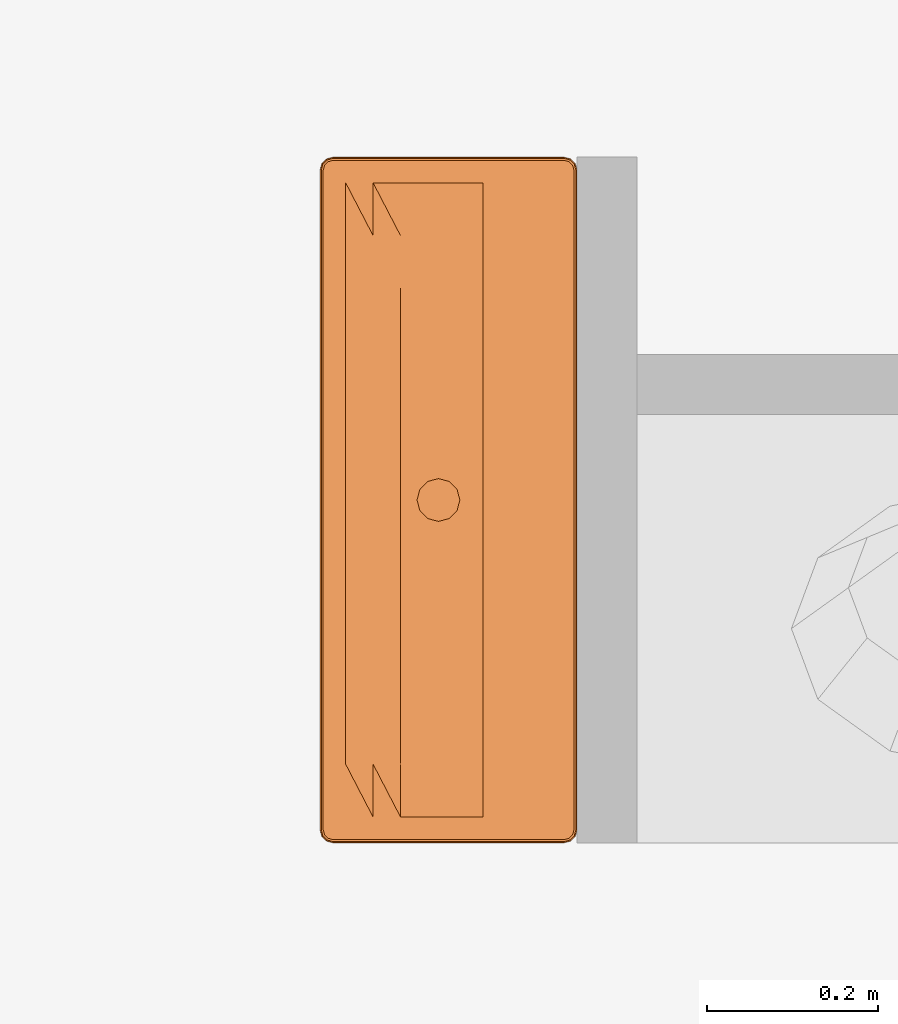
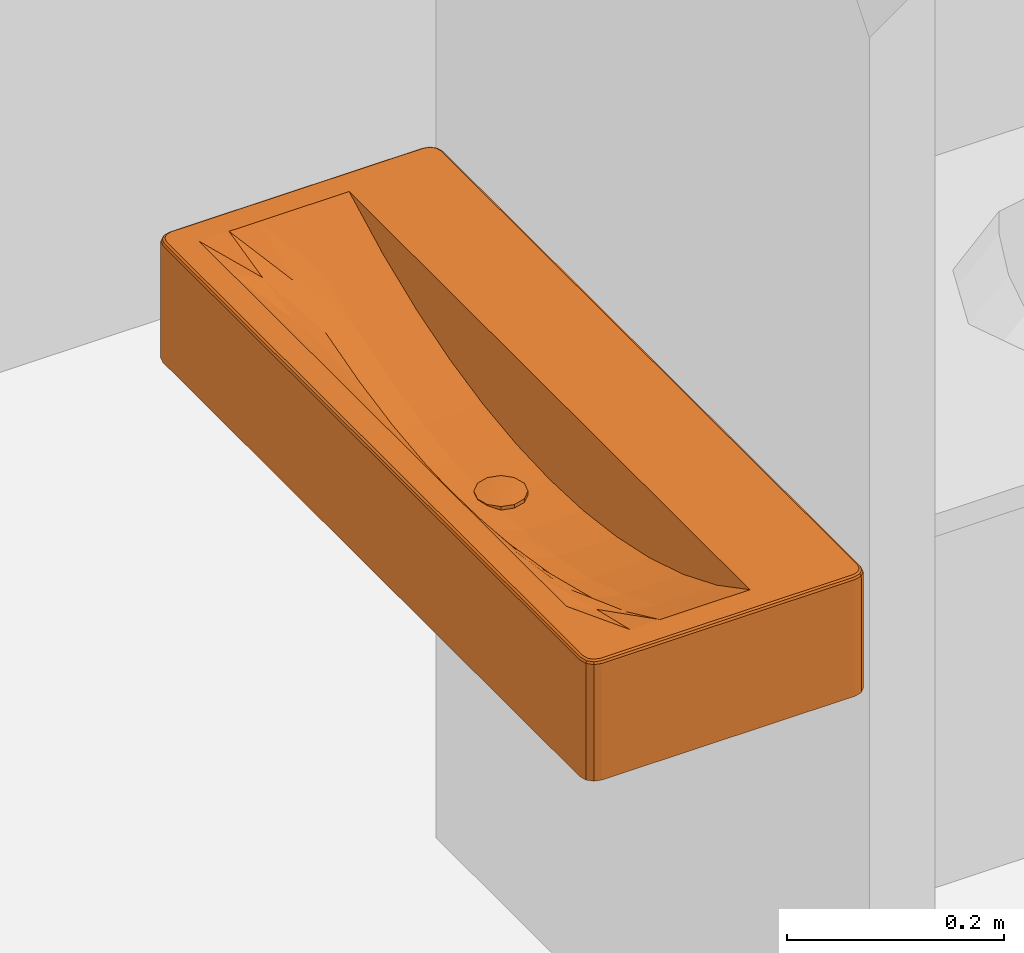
# One storey, part 61 of 64: 1 proxy.
"""IFC2X3 building model written with IfcOpenShell, lengths in metres."""

from ifc_helpers import new_model, entity, si_unit, converted_unit, derived_unit, direction, frame, origin, place, context, subcontext, project, spatial, faceted_brep, source, transform, mapped, material, type_object, type_shapes, element, save


model = new_model("IFC2X3")

# Units and contexts
model_context = context("Model", 3, precision=1e-05, world=origin(), true_north=direction((6.123031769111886e-17, 1.0)))
body_context = subcontext(model_context, "Body", "Model", "MODEL_VIEW")
ifc_project = project(units=[si_unit("LENGTHUNIT", "METRE"), si_unit("AREAUNIT", "SQUARE_METRE"), si_unit("VOLUMEUNIT", "CUBIC_METRE"), converted_unit("PLANEANGLEUNIT", "DEGREE", entity("IfcRatioMeasure", 0.017453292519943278), si_unit("PLANEANGLEUNIT", "RADIAN"), dimensions=[0, 0, 0, 0, 0, 0, 0]), si_unit("MASSUNIT", "GRAM", prefix="KILO"), derived_unit("MASSDENSITYUNIT", [(si_unit("MASSUNIT", "GRAM", prefix="KILO"), 1), (si_unit("LENGTHUNIT", "METRE"), -3)]), derived_unit("MOMENTOFINERTIAUNIT", [(si_unit("LENGTHUNIT", "METRE"), 4)]), si_unit("TIMEUNIT", "SECOND"), si_unit("FREQUENCYUNIT", "HERTZ"), si_unit("THERMODYNAMICTEMPERATUREUNIT", "DEGREE_CELSIUS"), derived_unit("THERMALTRANSMITTANCEUNIT", [(si_unit("MASSUNIT", "GRAM", prefix="KILO"), 1), (si_unit("THERMODYNAMICTEMPERATUREUNIT", "KELVIN"), -1), (si_unit("TIMEUNIT", "SECOND"), -3)]), derived_unit("THERMALCONDUCTANCEUNIT", [(si_unit("MASSUNIT", "GRAM", prefix="KILO"), 1), (si_unit("LENGTHUNIT", "METRE"), 1), (si_unit("THERMODYNAMICTEMPERATUREUNIT", "KELVIN"), -1), (si_unit("TIMEUNIT", "SECOND"), -3)]), derived_unit("VOLUMETRICFLOWRATEUNIT", [(si_unit("LENGTHUNIT", "METRE"), 3), (si_unit("TIMEUNIT", "SECOND"), -1)]), derived_unit("MASSFLOWRATEUNIT", [(si_unit("MASSUNIT", "GRAM", prefix="KILO"), 1), (si_unit("TIMEUNIT", "SECOND"), -1)]), derived_unit("ROTATIONALFREQUENCYUNIT", [(si_unit("TIMEUNIT", "SECOND"), -1)]), si_unit("ELECTRICCURRENTUNIT", "AMPERE"), si_unit("ELECTRICVOLTAGEUNIT", "VOLT"), si_unit("POWERUNIT", "WATT"), si_unit("FORCEUNIT", "NEWTON", prefix="KILO"), si_unit("ILLUMINANCEUNIT", "LUX"), si_unit("LUMINOUSFLUXUNIT", "LUMEN"), si_unit("LUMINOUSINTENSITYUNIT", "CANDELA"), derived_unit("USERDEFINED", [(si_unit("MASSUNIT", "GRAM", prefix="KILO"), -1), (si_unit("LENGTHUNIT", "METRE"), -2), (si_unit("TIMEUNIT", "SECOND"), 3), (si_unit("LUMINOUSFLUXUNIT", "LUMEN"), 1)]), derived_unit("USERDEFINED", [(si_unit("MASSUNIT", "GRAM", prefix="KILO"), 1), (si_unit("LENGTHUNIT", "METRE"), 3), (si_unit("TIMEUNIT", "SECOND"), -3), (si_unit("ELECTRICCURRENTUNIT", "AMPERE"), -2)]), derived_unit("USERDEFINED", [(si_unit("LENGTHUNIT", "METRE"), 2), (si_unit("TIMEUNIT", "SECOND"), -2)]), derived_unit("SOUNDPOWERUNIT", [(si_unit("MASSUNIT", "GRAM", prefix="KILO"), 1), (si_unit("LENGTHUNIT", "METRE"), 2), (si_unit("TIMEUNIT", "SECOND"), -3)]), derived_unit("SOUNDPRESSUREUNIT", [(si_unit("MASSUNIT", "GRAM", prefix="KILO"), 1), (si_unit("LENGTHUNIT", "METRE"), -1), (si_unit("TIMEUNIT", "SECOND"), -2)]), derived_unit("LINEARVELOCITYUNIT", [(si_unit("LENGTHUNIT", "METRE"), 1), (si_unit("TIMEUNIT", "SECOND"), -1)]), si_unit("PRESSUREUNIT", "PASCAL"), derived_unit("USERDEFINED", [(si_unit("LENGTHUNIT", "METRE"), -2), (si_unit("MASSUNIT", "GRAM", prefix="KILO"), 1), (si_unit("TIMEUNIT", "SECOND"), -2)]), derived_unit("LINEARFORCEUNIT", [(si_unit("MASSUNIT", "GRAM", prefix="KILO"), 1), (si_unit("LENGTHUNIT", "METRE"), 1), (si_unit("TIMEUNIT", "SECOND"), -2), (si_unit("LENGTHUNIT", "METRE"), -1)]), derived_unit("PLANARFORCEUNIT", [(si_unit("MASSUNIT", "GRAM", prefix="KILO"), 1), (si_unit("LENGTHUNIT", "METRE"), 1), (si_unit("TIMEUNIT", "SECOND"), -2), (si_unit("LENGTHUNIT", "METRE"), -2)]), derived_unit("SPECIFICHEATCAPACITYUNIT", [(si_unit("LENGTHUNIT", "METRE"), 2), (si_unit("TIMEUNIT", "SECOND"), -2), (si_unit("THERMODYNAMICTEMPERATUREUNIT", "KELVIN"), -1)]), derived_unit("VAPORPERMEABILITYUNIT", [(si_unit("TIMEUNIT", "SECOND"), 1), (si_unit("LENGTHUNIT", "METRE"), -1)]), derived_unit("DYNAMICVISCOSITYUNIT", [(si_unit("MASSUNIT", "GRAM", prefix="KILO"), 1), (si_unit("LENGTHUNIT", "METRE"), -1), (si_unit("TIMEUNIT", "SECOND"), -1)]), derived_unit("THERMALEXPANSIONCOEFFICIENTUNIT", [(si_unit("THERMODYNAMICTEMPERATUREUNIT", "KELVIN"), -1)])], contexts=[model_context])

# Site, building, storey
site_placement = place(None, origin())
site = spatial("IfcSite", under=ifc_project, at=site_placement, Name="Default", CompositionType="ELEMENT")
building_placement = place(site_placement, origin())
building = spatial("IfcBuilding", under=site, at=building_placement, CompositionType="ELEMENT")
storey_placement = place(building_placement, origin())
storey = spatial("IfcBuildingStorey", under=building, at=storey_placement, Name="REZ-DE-CHAUSSÉE", CompositionType="ELEMENT", Elevation=0.0)

# Proxy
ifc_material = material(Name="Déco - Céramique / Porcelaine")
building_element_proxy_type = type_object("IfcBuildingElementProxyType", Name="Symb-0001", PredefinedType="NOTDEFINED", material=ifc_material)
shared_shape = source(origin(), body_context, "Body", "Brep", [
    faceted_brep([(0.0, 0.015000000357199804, 0.0), (0.0, 0.7850000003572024, 0.0), (0.002009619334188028, 0.7925000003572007, 0.0), (0.007500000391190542, 0.797990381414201, 0.0), (0.015000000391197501, 0.800000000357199, 0.0), (0.2850000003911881, 0.800000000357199, 0.0), (0.29250000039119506, 0.797990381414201, 0.0), (0.29799038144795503, 0.7925000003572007, 0.0), (0.3000000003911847, 0.7850000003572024, 0.0), (0.3000000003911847, 0.015000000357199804, 0.0), (0.29799038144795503, 0.007500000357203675, 0.0), (0.29250000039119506, 0.00200961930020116, 0.0), (0.2850000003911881, 0.0, 0.0), (0.015000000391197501, 0.0, 0.0), (0.007500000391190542, 0.00200961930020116, 0.0), (0.002009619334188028, 0.007500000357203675, 0.0), (0.03000000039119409, 0.7700000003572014, 0.0), (0.03000000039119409, 0.030000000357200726, 0.0), (0.19000000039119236, 0.030000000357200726, 0.0), (0.19000000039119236, 0.7700000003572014, 0.0), (0.0, 0.015000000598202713, 0.13000000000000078), (0.0, 0.7850000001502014, 0.13000000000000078), (0.0020096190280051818, 0.7925000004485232, 0.13000000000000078), (0.007500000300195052, 0.79799038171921, 0.13000000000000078), (0.01500000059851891, 0.8000000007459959, 0.13000000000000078), (0.28500000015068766, 0.8000000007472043, 0.13000000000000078), (0.29250000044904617, 0.797990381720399, 0.13000000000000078), (0.29799038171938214, 0.7925000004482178, 0.13000000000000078), (0.300000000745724, 0.7850000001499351, 0.13000000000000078), (0.3000000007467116, 0.015000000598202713, 0.13000000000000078), (0.2979903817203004, 0.007500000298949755, 0.13000000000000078), (0.2925000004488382, 0.0020096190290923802, 0.13000000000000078), (0.2850000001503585, 0.0, 0.13000000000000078), (0.015000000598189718, 0.0, 0.13000000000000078), (0.00750000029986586, 0.0020096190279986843, 0.13000000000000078), (0.002009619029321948, 0.007500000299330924, 0.13000000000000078), (0.03000000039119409, 0.7700000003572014, 0.13499999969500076), (0.03000000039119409, 0.030000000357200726, 0.13499999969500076), (0.19000000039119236, 0.030000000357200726, 0.13499999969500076), (0.19000000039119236, 0.7700000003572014, 0.13499999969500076), (0.00017037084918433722, 0.01502243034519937, 0.13129409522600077), (0.00017037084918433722, 0.7849775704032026, 0.13129409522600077), (0.002162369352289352, 0.7924118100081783, 0.13129409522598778), (0.007588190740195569, 0.7978376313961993, 0.13129409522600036), (0.015022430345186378, 0.7998296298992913, 0.13129409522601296), (0.2849775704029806, 0.7998296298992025, 0.1312940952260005), (0.2924118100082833, 0.7978376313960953, 0.13129409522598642), (0.29783763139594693, 0.7924118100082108, 0.13129409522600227), (0.2998296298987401, 0.7849775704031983, 0.13129409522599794), (0.29982962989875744, 0.01502243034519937, 0.13129409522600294), (0.29783763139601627, 0.007588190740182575, 0.1312940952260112), (0.29241181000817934, 0.0021623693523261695, 0.1312940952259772), (0.2849775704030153, 0.00017037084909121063, 0.1312940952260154), (0.015022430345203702, 0.00017037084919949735, 0.1312940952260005), (0.007588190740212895, 0.0021623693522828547, 0.1312940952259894), (0.0021623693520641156, 0.007588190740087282, 0.13129409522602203), (0.29500000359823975, 0.7843417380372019, 0.1349999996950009), (0.2935075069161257, 0.7899118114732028, 0.1349999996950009), (0.28991181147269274, 0.7935075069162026, 0.1349999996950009), (0.28434173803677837, 0.7950000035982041, 0.1349999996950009), (0.01565826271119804, 0.7950000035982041, 0.1349999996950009), (0.010088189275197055, 0.7935075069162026, 0.1349999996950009), (0.006492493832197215, 0.7899118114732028, 0.1349999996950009), (0.004999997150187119, 0.7843417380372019, 0.1349999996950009), (0.004999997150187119, 0.015658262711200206, 0.1349999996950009), (0.006492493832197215, 0.010088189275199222, 0.1349999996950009), (0.010088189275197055, 0.006492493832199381, 0.1349999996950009), (0.01565826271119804, 0.004999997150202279, 0.1349999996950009), (0.28434173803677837, 0.004999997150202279, 0.1349999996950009), (0.28991181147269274, 0.006492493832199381, 0.1349999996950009), (0.2935075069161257, 0.010088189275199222, 0.1349999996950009), (0.29500000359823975, 0.015658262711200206, 0.1349999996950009), (0.0014644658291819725, 0.015192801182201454, 0.13353553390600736), (0.0014644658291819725, 0.7848071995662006, 0.13353553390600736), (0.0033226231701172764, 0.7917419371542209, 0.13353553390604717), (0.008258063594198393, 0.7966773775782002, 0.13353553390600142), (0.01519280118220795, 0.7985355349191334, 0.13353553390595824), (0.2848071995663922, 0.7985355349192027, 0.13353553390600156), (0.29174193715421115, 0.7966773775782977, 0.13353553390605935), (0.2966773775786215, 0.7917419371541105, 0.13353553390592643), (0.2985355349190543, 0.7848071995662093, 0.13353553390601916), (0.298535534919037, 0.015192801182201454, 0.1335355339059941), (0.2966773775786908, 0.008258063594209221, 0.13353553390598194), (0.2917419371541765, 0.0033226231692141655, 0.1335355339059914), (0.28480719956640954, 0.0014644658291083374, 0.13353553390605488), (0.015192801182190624, 0.0014644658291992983, 0.13353553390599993), (0.008258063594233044, 0.0033226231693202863, 0.13353553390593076), (0.003322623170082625, 0.00825806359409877, 0.13353553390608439), (0.2946677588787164, 0.7905816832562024, 0.13482962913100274), (0.29629409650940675, 0.7845121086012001, 0.1348296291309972), (0.2905816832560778, 0.7946677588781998, 0.13482962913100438), (0.28451210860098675, 0.7962940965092, 0.13482962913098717), (0.01548789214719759, 0.7962940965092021, 0.13482962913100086), (0.009418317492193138, 0.7946677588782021, 0.13482962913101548), (0.00533224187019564, 0.7905816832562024, 0.13482962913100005), (0.003705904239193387, 0.7845121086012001, 0.1348296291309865), (0.003705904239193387, 0.015487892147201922, 0.13482962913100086), (0.00533224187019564, 0.009418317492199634, 0.1348296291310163), (0.009418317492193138, 0.005332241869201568, 0.13482962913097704), (0.01548789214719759, 0.003705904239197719, 0.13482962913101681), (0.28451210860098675, 0.0037059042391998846, 0.13482962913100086), (0.2905816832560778, 0.005332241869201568, 0.13482962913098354), (0.2946677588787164, 0.00941831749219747, 0.134829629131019), (0.29629409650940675, 0.015487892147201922, 0.13482962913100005), (0.11653636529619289, 0.3875000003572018, 0.0), (0.12568700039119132, 0.378349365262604, 0.0), (0.13818700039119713, 0.37500000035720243, 0.0), (0.15068700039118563, 0.378349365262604, 0.0), (0.15983763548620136, 0.3875000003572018, 0.0), (0.16318700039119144, 0.40000000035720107, 0.0), (0.15983763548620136, 0.4125000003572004, 0.0), (0.15068700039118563, 0.4216506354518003, 0.0), (0.13818700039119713, 0.4250000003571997, 0.0), (0.12568700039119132, 0.4216506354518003, 0.0), (0.11653636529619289, 0.4125000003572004, 0.0), (0.11318700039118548, 0.40000000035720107, 0.0), (0.09400000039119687, 0.7700000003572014, 0.1350000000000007), (0.12600000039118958, 0.7700000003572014, 0.1350000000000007), (0.15800000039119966, 0.7700000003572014, 0.1350000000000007), (0.19000000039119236, 0.7700000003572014, 0.1350000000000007), (0.03000000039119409, 0.7700000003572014, 0.1350000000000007), (0.06200000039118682, 0.7700000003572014, 0.1350000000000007), (0.19000000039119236, 0.215000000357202, 0.058679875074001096), (0.19000000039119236, 0.15333333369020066, 0.07765767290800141), (0.19000000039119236, 0.09166666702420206, 0.10285106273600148), (0.19000000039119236, 0.030000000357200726, 0.13500000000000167), (0.19000000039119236, 0.7083333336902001, 0.10285106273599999), (0.19000000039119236, 0.6466666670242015, 0.07765767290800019), (0.19000000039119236, 0.5850000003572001, 0.058679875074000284), (0.19000000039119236, 0.5233333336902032, 0.04542877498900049), (0.19000000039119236, 0.46166666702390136, 0.03759326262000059), (0.19000000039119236, 0.40000000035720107, 0.03500000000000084), (0.19000000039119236, 0.33833333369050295, 0.03759326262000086), (0.19000000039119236, 0.2766666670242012, 0.04542877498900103), (0.12600000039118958, 0.03000000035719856, 0.1350000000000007), (0.09400000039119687, 0.03000000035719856, 0.1350000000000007), (0.06200000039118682, 0.03000000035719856, 0.1350000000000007), (0.03000000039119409, 0.03000000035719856, 0.1350000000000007), (0.15800000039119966, 0.03000000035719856, 0.1350000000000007), (0.03000000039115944, 0.5850000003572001, 0.1350000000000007), (0.03000000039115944, 0.6466666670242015, 0.1350000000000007), (0.03000000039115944, 0.7083333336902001, 0.1350000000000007), (0.03000000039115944, 0.09166666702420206, 0.1350000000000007), (0.03000000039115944, 0.15333333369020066, 0.1350000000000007), (0.03000000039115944, 0.215000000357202, 0.1350000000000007), (0.03000000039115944, 0.2766666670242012, 0.1350000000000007), (0.03000000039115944, 0.33833333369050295, 0.1350000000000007), (0.03000000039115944, 0.40000000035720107, 0.1350000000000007), (0.03000000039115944, 0.46166666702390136, 0.1350000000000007), (0.03000000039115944, 0.5233333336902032, 0.1350000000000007), (0.11653636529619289, 0.38750000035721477, 0.03857179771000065), (0.12568700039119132, 0.378349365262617, 0.03601121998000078), (0.12600000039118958, 0.37826549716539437, 0.035913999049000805), (0.13818700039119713, 0.37500000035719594, 0.03605132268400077), (0.15068700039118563, 0.3783493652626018, 0.035910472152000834), (0.15800000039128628, 0.38566236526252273, 0.03560293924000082), (0.1598376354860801, 0.3875000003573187, 0.03552566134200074), (0.16318700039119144, 0.4000000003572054, 0.03500000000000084), (0.15983763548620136, 0.41250000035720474, 0.03552566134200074), (0.15800000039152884, 0.4143376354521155, 0.03560293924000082), (0.15068700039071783, 0.42165063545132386, 0.035910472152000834), (0.13818700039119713, 0.42500000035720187, 0.03605132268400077), (0.12600000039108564, 0.42173450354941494, 0.035913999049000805), (0.12568700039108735, 0.4216506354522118, 0.03600890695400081), (0.11849640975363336, 0.4144600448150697, 0.037967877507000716), (0.11653636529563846, 0.41250000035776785, 0.03852386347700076), (0.11318700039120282, 0.40000000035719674, 0.03912422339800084), (0.12600000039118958, 0.7083333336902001, 0.10285106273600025), (0.15800000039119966, 0.7083333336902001, 0.10285106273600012), (0.06200000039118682, 0.7083333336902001, 0.12036327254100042), (0.09400000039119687, 0.7083333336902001, 0.10644774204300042), (0.15800000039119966, 0.15333333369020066, 0.07765767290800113), (0.15800000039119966, 0.215000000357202, 0.058679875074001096), (0.15800000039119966, 0.09166666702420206, 0.10285106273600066), (0.15800000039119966, 0.6466666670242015, 0.07765767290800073), (0.15800000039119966, 0.5850000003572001, 0.058679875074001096), (0.15800000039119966, 0.5233333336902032, 0.04542877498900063), (0.15800000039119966, 0.46166666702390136, 0.03759326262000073), (0.15800000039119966, 0.33833333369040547, 0.03759326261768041), (0.15800000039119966, 0.2766666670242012, 0.04542877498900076), (0.09400000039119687, 0.09166666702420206, 0.10644774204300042), (0.06200000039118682, 0.09166666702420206, 0.12036327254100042), (0.12600000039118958, 0.09166666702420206, 0.1028510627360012), (0.06200000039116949, 0.5850000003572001, 0.0993358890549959), (0.06200000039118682, 0.6466666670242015, 0.10849779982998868), (0.06200000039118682, 0.15333333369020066, 0.10849779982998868), (0.06200000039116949, 0.215000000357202, 0.0993358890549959), (0.06200000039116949, 0.2766666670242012, 0.09282677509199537), (0.06200000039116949, 0.33833333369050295, 0.08893516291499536), (0.06200000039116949, 0.40000000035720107, 0.08764024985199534), (0.06200000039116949, 0.46166666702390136, 0.08893516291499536), (0.06200000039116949, 0.5233333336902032, 0.09282677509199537), (0.0940000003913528, 0.40000000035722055, 0.04530009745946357), (0.12600000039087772, 0.3383333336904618, 0.037593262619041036), (0.12600000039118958, 0.46166666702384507, 0.037593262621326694), (0.09400000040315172, 0.4616666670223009, 0.047656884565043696), (0.12600000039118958, 0.6466666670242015, 0.07765767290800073), (0.12600000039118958, 0.15333333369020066, 0.07765767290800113), (0.12600000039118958, 0.215000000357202, 0.058679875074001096), (0.12600000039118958, 0.5850000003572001, 0.058679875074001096), (0.12600000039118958, 0.5233333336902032, 0.04542877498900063), (0.12600000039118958, 0.2766666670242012, 0.04542877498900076), (0.09400000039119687, 0.33833333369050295, 0.047656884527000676), (0.09400000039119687, 0.5233333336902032, 0.05476898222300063), (0.09400000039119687, 0.6466666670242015, 0.08387453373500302), (0.09400000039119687, 0.215000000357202, 0.06676538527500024), (0.09400000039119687, 0.15333333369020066, 0.08387453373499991), (0.09400000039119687, 0.5850000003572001, 0.06676538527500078), (0.09400000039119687, 0.2766666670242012, 0.05476898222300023), (0.12568700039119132, 0.378349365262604, 0.03500000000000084), (0.11653636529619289, 0.3875000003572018, 0.03500000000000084), (0.11318700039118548, 0.40000000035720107, 0.03500000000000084), (0.11653636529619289, 0.4125000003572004, 0.03500000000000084), (0.12568700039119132, 0.4216506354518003, 0.03500000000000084), (0.13818700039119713, 0.4250000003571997, 0.03500000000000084), (0.15068700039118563, 0.4216506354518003, 0.03500000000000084), (0.15983763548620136, 0.4125000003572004, 0.03500000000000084), (0.15983763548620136, 0.3875000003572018, 0.03500000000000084), (0.15068700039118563, 0.378349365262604, 0.03500000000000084), (0.13818700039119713, 0.37500000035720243, 0.03500000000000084), (0.12568700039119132, 0.378349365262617, 0.040000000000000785), (0.11653636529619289, 0.38750000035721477, 0.040000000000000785), (0.11318700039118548, 0.40000000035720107, 0.040000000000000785), (0.11653636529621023, 0.4125000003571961, 0.040000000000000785), (0.12568700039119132, 0.4216506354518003, 0.040000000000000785), (0.13818700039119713, 0.4250000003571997, 0.040000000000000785), (0.15068700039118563, 0.4216506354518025, 0.040000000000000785), (0.15983763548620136, 0.4125000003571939, 0.040000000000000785), (0.16318700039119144, 0.4000000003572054, 0.040000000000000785), (0.15983763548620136, 0.3875000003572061, 0.040000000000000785), (0.15068700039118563, 0.3783493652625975, 0.040000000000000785), (0.13818700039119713, 0.37500000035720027, 0.040000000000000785), (0.13818700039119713, 0.40000000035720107, 0.042000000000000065), (0.1508089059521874, 0.40000000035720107, 0.04149757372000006), (0.1491178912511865, 0.40631095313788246, 0.04149757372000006), (0.1491178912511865, 0.39368904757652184, 0.04149757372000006), (0.14449795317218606, 0.4109308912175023, 0.041497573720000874), (0.14449795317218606, 0.3890691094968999, 0.041497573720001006), (0.13818700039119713, 0.41262190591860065, 0.041497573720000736), (0.13818700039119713, 0.3873780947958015, 0.041497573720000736), (0.1318760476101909, 0.4109308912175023, 0.041497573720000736), (0.1318760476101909, 0.3890691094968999, 0.041497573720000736), (0.12725610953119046, 0.40631095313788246, 0.041497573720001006), (0.12725610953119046, 0.39368904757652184, 0.041497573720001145), (0.12556509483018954, 0.40000000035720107, 0.041497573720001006)], [[[0, 1, 2, 3, 4, 5, 6, 7, 8, 9, 10, 11, 12, 13, 14, 15], [16, 17, 18, 19]], [[0, 20, 21, 1]], [[1, 21, 22, 2]], [[2, 22, 23, 3]], [[3, 23, 24, 4]], [[4, 24, 25, 5]], [[5, 25, 26, 6]], [[6, 26, 27, 7]], [[7, 27, 28, 8]], [[8, 28, 29, 9]], [[9, 29, 30, 10]], [[10, 30, 31, 11]], [[11, 31, 32, 12]], [[12, 32, 33, 13]], [[13, 33, 34, 14]], [[14, 34, 35, 15]], [[15, 35, 20, 0]], [[36, 37, 17, 16]], [[37, 38, 18, 17]], [[38, 39, 19, 18]], [[39, 36, 16, 19]], [[20, 40, 41, 21]], [[21, 41, 42, 22]], [[22, 42, 43, 23]], [[23, 43, 44, 24]], [[24, 44, 45, 25]], [[25, 45, 46, 26]], [[26, 46, 47, 27]], [[27, 47, 48, 28]], [[28, 48, 49, 29]], [[29, 49, 50, 30]], [[30, 50, 51, 31]], [[31, 51, 52, 32]], [[32, 52, 53, 33]], [[33, 53, 54, 34]], [[34, 54, 55, 35]], [[35, 55, 40, 20]], [[56, 57, 58, 59, 60, 61, 62, 63, 64, 65, 66, 67, 68, 69, 70, 71], [36, 39, 38, 37]], [[40, 72, 73, 41]], [[41, 73, 74, 42]], [[42, 74, 75, 43]], [[43, 75, 76, 44]], [[44, 76, 77, 45]], [[45, 77, 78, 46]], [[46, 78, 79, 47]], [[47, 79, 80, 48]], [[48, 80, 81, 49]], [[49, 81, 82, 50]], [[50, 82, 83, 51]], [[51, 83, 84, 52]], [[52, 84, 85, 53]], [[53, 85, 86, 54]], [[54, 86, 87, 55]], [[55, 87, 72, 40]], [[88, 57, 56, 89]], [[90, 58, 57, 88]], [[91, 59, 58, 90]], [[92, 60, 59, 91]], [[93, 61, 60, 92]], [[94, 62, 61, 93]], [[95, 63, 62, 94]], [[96, 64, 63, 95]], [[97, 65, 64, 96]], [[98, 66, 65, 97]], [[99, 67, 66, 98]], [[100, 68, 67, 99]], [[101, 69, 68, 100]], [[102, 70, 69, 101]], [[103, 71, 70, 102]], [[89, 56, 71, 103]], [[72, 96, 95, 73]], [[73, 95, 94, 74]], [[74, 94, 93, 75]], [[75, 93, 92, 76]], [[76, 92, 91, 77]], [[77, 91, 90, 78]], [[78, 90, 88, 79]], [[79, 88, 89, 80]], [[80, 89, 103, 81]], [[81, 103, 102, 82]], [[82, 102, 101, 83]], [[83, 101, 100, 84]], [[84, 100, 99, 85]], [[85, 99, 98, 86]], [[86, 98, 97, 87]], [[87, 97, 96, 72]], [[16, 19, 18, 17], [104, 105, 106, 107, 108, 109, 110, 111, 112, 113, 114, 115]], [[116, 117, 118, 119, 19, 16, 120, 121]], [[122, 123, 124, 125, 18, 19, 119, 126, 127, 128, 129, 130, 131, 132, 133]], [[134, 135, 136, 137, 17, 18, 125, 138]], [[139, 140, 141, 120, 16, 17, 137, 142, 143, 144, 145, 146, 147, 148, 149]], [[150, 151, 105, 104]], [[152, 153, 106, 105, 151]], [[153, 154, 107, 106]], [[154, 155, 156, 108, 107]], [[156, 157, 109, 108]], [[157, 158, 110, 109]], [[158, 159, 160, 111, 110]], [[160, 161, 112, 111]], [[162, 163, 113, 112, 161]], [[164, 165, 114, 113, 163]], [[165, 166, 115, 114]], [[166, 150, 104, 115]], [[116, 167, 117]], [[167, 168, 118, 117]], [[168, 126, 119, 118]], [[120, 169, 121]], [[121, 170, 116]], [[171, 123, 122, 172]], [[173, 124, 123, 171]], [[138, 125, 124, 173]], [[174, 127, 126, 168]], [[175, 128, 127, 174]], [[176, 129, 128, 175]], [[177, 130, 129, 176]], [[158, 157, 131, 130, 177, 159]], [[156, 155, 178, 132, 131, 157]], [[179, 133, 132, 178]], [[172, 122, 133, 179]], [[180, 135, 134]], [[181, 136, 135]], [[142, 137, 136]], [[134, 138, 173, 182]], [[140, 139, 183]], [[141, 140, 184]], [[120, 141, 169]], [[143, 142, 181]], [[144, 143, 185]], [[145, 144, 186]], [[146, 145, 187]], [[147, 146, 188]], [[148, 147, 189]], [[149, 148, 190]], [[139, 149, 191]], [[150, 166, 192, 193, 152, 151]], [[155, 178, 193, 152, 153, 154]], [[160, 159, 177, 194, 162, 161]], [[163, 162, 194, 195, 164]], [[165, 164, 195, 192, 166]], [[116, 170, 167]], [[196, 174, 168, 167]], [[121, 169, 170]], [[197, 171, 172, 198]], [[182, 173, 171, 197]], [[199, 175, 174, 196]], [[200, 176, 175, 199]], [[194, 177, 176, 200]], [[201, 179, 178, 193]], [[198, 172, 179, 201]], [[181, 135, 180]], [[180, 134, 182]], [[142, 136, 181]], [[139, 191, 183]], [[140, 183, 184]], [[141, 184, 169]], [[143, 181, 185]], [[144, 185, 186]], [[145, 186, 187]], [[146, 187, 188]], [[147, 188, 189]], [[148, 189, 190]], [[149, 190, 191]], [[192, 202, 193]], [[203, 195, 194]], [[190, 192, 195]], [[170, 196, 167]], [[169, 204, 170]], [[205, 197, 198]], [[206, 182, 197]], [[204, 199, 196]], [[207, 200, 199]], [[203, 194, 200]], [[202, 201, 193]], [[208, 198, 201]], [[185, 181, 180]], [[206, 180, 182]], [[183, 191, 203]], [[184, 183, 207]], [[169, 184, 204]], [[186, 185, 206]], [[187, 186, 205]], [[188, 187, 208]], [[189, 188, 202]], [[190, 189, 192]], [[191, 190, 195]], [[189, 202, 192]], [[191, 195, 203]], [[170, 204, 196]], [[205, 206, 197]], [[208, 205, 198]], [[204, 207, 199]], [[207, 203, 200]], [[202, 208, 201]], [[185, 180, 206]], [[183, 203, 207]], [[184, 207, 204]], [[186, 206, 205]], [[187, 205, 208]], [[188, 208, 202]], [[209, 210, 211, 212, 213, 214, 215, 216, 157, 217, 218, 219]], [[210, 209, 220, 221]], [[211, 210, 221, 222]], [[212, 211, 222, 223]], [[213, 212, 223, 224]], [[214, 213, 224, 225]], [[215, 214, 225, 226]], [[216, 215, 226, 227]], [[157, 216, 227, 228]], [[217, 157, 228, 229]], [[218, 217, 229, 230]], [[219, 218, 230, 231]], [[209, 219, 231, 220]], [[220, 231, 230, 229, 228, 227, 226, 225, 224, 223, 222, 221]], [[232, 233, 234]], [[232, 235, 233]], [[234, 233, 228, 227]], [[232, 234, 236]], [[232, 237, 235]], [[233, 235, 229, 228]], [[236, 234, 227, 226]], [[232, 236, 238]], [[232, 239, 237]], [[235, 237, 230, 229]], [[238, 236, 226, 225]], [[232, 238, 240]], [[232, 241, 239]], [[237, 239, 231, 230]], [[240, 238, 225, 224]], [[232, 240, 242]], [[232, 243, 241]], [[239, 241, 220, 231]], [[242, 240, 224, 223]], [[232, 242, 244]], [[232, 244, 243]], [[241, 243, 221, 220]], [[244, 242, 223, 222]], [[243, 244, 222, 221]]]),
])
type_shapes(building_element_proxy_type, [shared_shape])
proxy_placement = place(storey_placement, frame((108.76075227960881, 16.887209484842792, 0.6499999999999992)))
element("IfcBuildingElementProxy", 1, at=proxy_placement, inside=storey, type_object=building_element_proxy_type, material=ifc_material, Name="Symb-0001:Symb-0001", ObjectType="Symb-0001:Symb-0001", context=body_context, shape_type="MappedRepresentation", body=[
    mapped(shared_shape, transform((0.0, 0.0, 0.0), scale=1.0)),
])

save(model, "model.ifc")
